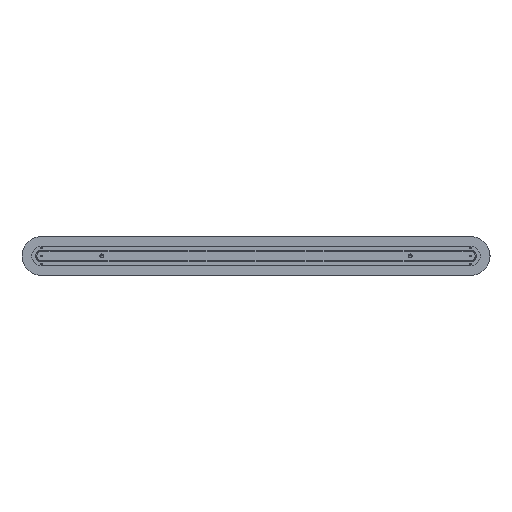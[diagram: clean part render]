
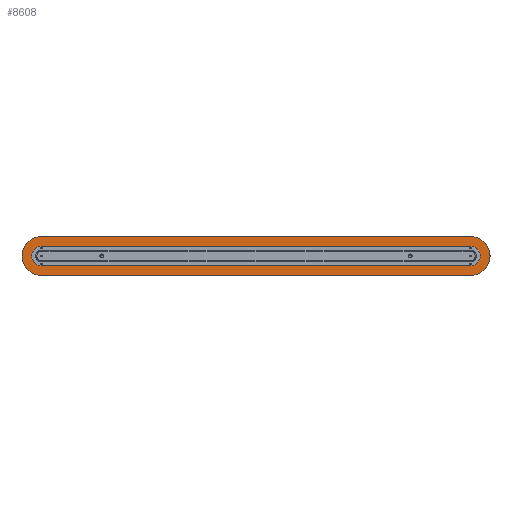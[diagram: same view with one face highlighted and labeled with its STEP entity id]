
A CAD part, top view. The second image highlights one B-rep face of the part: STEP entity #8608.
In plain terms, the highlighted planar face has unit normal (0, 0, 1).
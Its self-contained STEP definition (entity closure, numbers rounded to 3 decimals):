
#8513=CARTESIAN_POINT('',(14102.124,-2633.019,19.));
#8514=DIRECTION('',(0.,0.,1.));
#8515=DIRECTION('',(-1.,0.,0.));
#8516=AXIS2_PLACEMENT_3D('',#8513,#8514,#8515);
#8517=PLANE('',#8516);
#8518=CARTESIAN_POINT('',(13897.061,-4378.156,19.));
#8519=VERTEX_POINT('',#8518);
#8520=CARTESIAN_POINT('',(13897.061,-4278.356,19.));
#8521=VERTEX_POINT('',#8520);
#8522=CARTESIAN_POINT('',(13897.061,-4328.256,19.));
#8523=DIRECTION('',(0.,0.,1.));
#8524=DIRECTION('',(1.,0.,-0.));
#8525=AXIS2_PLACEMENT_3D('',#8522,#8523,#8524);
#8526=CIRCLE('',#8525,49.9);
#8527=EDGE_CURVE('',#8519,#8521,#8526,.T.);
#8528=ORIENTED_EDGE('',*,*,#8527,.T.);
#8529=CARTESIAN_POINT('',(12797.061,-4278.356,19.));
#8530=VERTEX_POINT('',#8529);
#8531=CARTESIAN_POINT('',(13897.061,-4278.356,19.));
#8532=DIRECTION('',(-1.,0.,0.));
#8533=VECTOR('',#8532,1100.);
#8534=LINE('',#8531,#8533);
#8535=EDGE_CURVE('',#8521,#8530,#8534,.T.);
#8536=ORIENTED_EDGE('',*,*,#8535,.T.);
#8537=CARTESIAN_POINT('',(12747.161,-4328.256,19.));
#8538=VERTEX_POINT('',#8537);
#8539=CARTESIAN_POINT('',(12797.061,-4328.256,19.));
#8540=DIRECTION('',(0.,0.,1.));
#8541=DIRECTION('',(1.,0.,-0.));
#8542=AXIS2_PLACEMENT_3D('',#8539,#8540,#8541);
#8543=CIRCLE('',#8542,49.9);
#8544=EDGE_CURVE('',#8530,#8538,#8543,.T.);
#8545=ORIENTED_EDGE('',*,*,#8544,.T.);
#8546=CARTESIAN_POINT('',(12797.061,-4378.156,19.));
#8547=VERTEX_POINT('',#8546);
#8548=CARTESIAN_POINT('',(12797.061,-4328.256,19.));
#8549=DIRECTION('',(0.,0.,1.));
#8550=DIRECTION('',(1.,0.,-0.));
#8551=AXIS2_PLACEMENT_3D('',#8548,#8549,#8550);
#8552=CIRCLE('',#8551,49.9);
#8553=EDGE_CURVE('',#8538,#8547,#8552,.T.);
#8554=ORIENTED_EDGE('',*,*,#8553,.T.);
#8555=CARTESIAN_POINT('',(12797.061,-4378.156,19.));
#8556=DIRECTION('',(1.,0.,-0.));
#8557=VECTOR('',#8556,1100.);
#8558=LINE('',#8555,#8557);
#8559=EDGE_CURVE('',#8547,#8519,#8558,.T.);
#8560=ORIENTED_EDGE('',*,*,#8559,.T.);
#8561=EDGE_LOOP('',(#8528,#8536,#8545,#8554,#8560));
#8562=FACE_BOUND('',#8561,.T.);
#8563=CARTESIAN_POINT('',(12797.061,-4353.356,19.));
#8564=VERTEX_POINT('',#8563);
#8565=CARTESIAN_POINT('',(12797.061,-4303.156,19.));
#8566=VERTEX_POINT('',#8565);
#8567=CARTESIAN_POINT('',(12797.061,-4328.256,19.));
#8568=DIRECTION('',(-0.,-0.,-1.));
#8569=DIRECTION('',(1.,0.,-0.));
#8570=AXIS2_PLACEMENT_3D('',#8567,#8568,#8569);
#8571=CIRCLE('',#8570,25.1);
#8572=EDGE_CURVE('',#8564,#8566,#8571,.T.);
#8573=ORIENTED_EDGE('',*,*,#8572,.T.);
#8574=CARTESIAN_POINT('',(13897.061,-4303.156,19.));
#8575=VERTEX_POINT('',#8574);
#8576=CARTESIAN_POINT('',(12797.061,-4303.156,19.));
#8577=DIRECTION('',(1.,0.,-0.));
#8578=VECTOR('',#8577,1100.);
#8579=LINE('',#8576,#8578);
#8580=EDGE_CURVE('',#8566,#8575,#8579,.T.);
#8581=ORIENTED_EDGE('',*,*,#8580,.T.);
#8582=CARTESIAN_POINT('',(13922.161,-4328.256,19.));
#8583=VERTEX_POINT('',#8582);
#8584=CARTESIAN_POINT('',(13897.061,-4328.256,19.));
#8585=DIRECTION('',(-0.,-0.,-1.));
#8586=DIRECTION('',(1.,0.,-0.));
#8587=AXIS2_PLACEMENT_3D('',#8584,#8585,#8586);
#8588=CIRCLE('',#8587,25.1);
#8589=EDGE_CURVE('',#8575,#8583,#8588,.T.);
#8590=ORIENTED_EDGE('',*,*,#8589,.T.);
#8591=CARTESIAN_POINT('',(13897.061,-4353.356,19.));
#8592=VERTEX_POINT('',#8591);
#8593=CARTESIAN_POINT('',(13897.061,-4328.256,19.));
#8594=DIRECTION('',(-0.,-0.,-1.));
#8595=DIRECTION('',(1.,0.,-0.));
#8596=AXIS2_PLACEMENT_3D('',#8593,#8594,#8595);
#8597=CIRCLE('',#8596,25.1);
#8598=EDGE_CURVE('',#8583,#8592,#8597,.T.);
#8599=ORIENTED_EDGE('',*,*,#8598,.T.);
#8600=CARTESIAN_POINT('',(13897.061,-4353.356,19.));
#8601=DIRECTION('',(-1.,-0.,0.));
#8602=VECTOR('',#8601,1100.);
#8603=LINE('',#8600,#8602);
#8604=EDGE_CURVE('',#8592,#8564,#8603,.T.);
#8605=ORIENTED_EDGE('',*,*,#8604,.T.);
#8606=EDGE_LOOP('',(#8573,#8581,#8590,#8599,#8605));
#8607=FACE_BOUND('',#8606,.T.);
#8608=ADVANCED_FACE('',(#8562,#8607),#8517,.T.);
